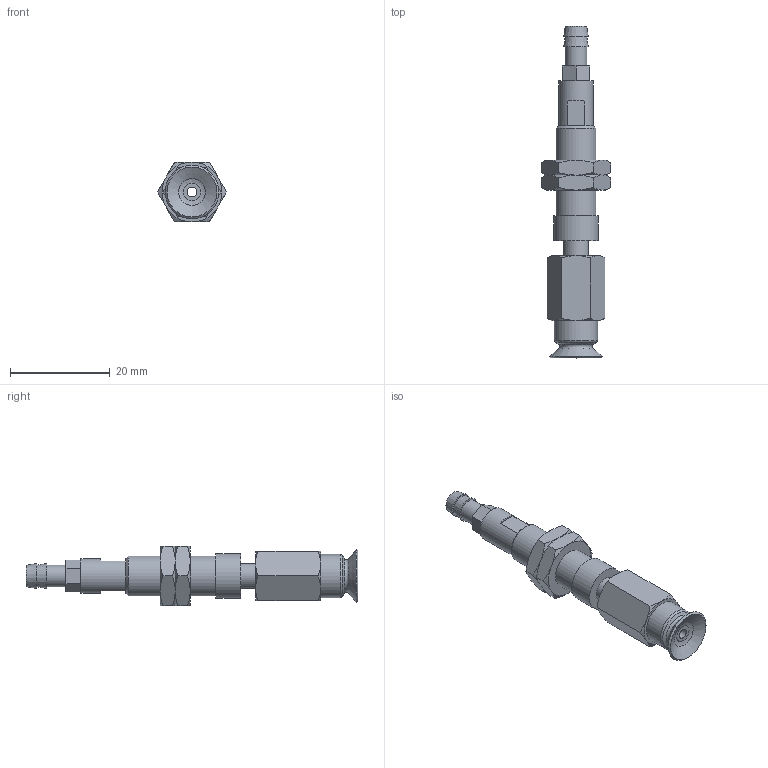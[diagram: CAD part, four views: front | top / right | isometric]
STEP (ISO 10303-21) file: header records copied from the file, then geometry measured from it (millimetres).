
FILE_DESCRIPTION(('STEP AP203'),'1');
FILE_NAME('-T.stp','2025-08-27T05:45:45',(' '),(' '),'Spatial InterOp 3D',' ',' ');
FILE_SCHEMA(('CONFIG_CONTROL_DESIGN'));
Length unit declared in the file: millimetre
Products named in the file (7): BNABPFTS-10A-3-※-T; ADAPTER; NAPATS-10A-3--M; Nut-10A-3-s; NAPFTS-10A-3-FBODY; BPFG-10A-※; T
Assembly tree (7 placements, depth 2):
  BNABPFTS-10A-3-※-T
    ADAPTER
    NAPATS-10A-3--M
    Nut-10A-3-s  x2
    NAPFTS-10A-3-FBODY
    BPFG-10A-※
    T
Bounding box: 13.86 x 66.5 x 12 mm (x, y, z)
Volume: 3553.1 mm3; surface area: 4336.1 mm2
Topology: 7 solids, 7 shells, 131 faces, 269 edges, 164 vertices
Faces by surface type: plane 54, cone 49, cylinder 19, torus 8, bspline 1
Full cylindrical faces by diameter (mm): 2 x3, 3 x1, 4 x2, 4.134 x1, 4.3 x1, 5 x3, 6 x2, 7 x1, 7.188 x2, 8 x1, 8.7 x1, 9 x1
Entity records: 3149 total; most frequent: CARTESIAN_POINT 733, DIRECTION 442, ORIENTED_EDGE 348, AXIS2_PLACEMENT_3D 201, EDGE_CURVE 174, EDGE_LOOP 170, FACE_OUTER_BOUND 135, VERTEX_POINT 128
